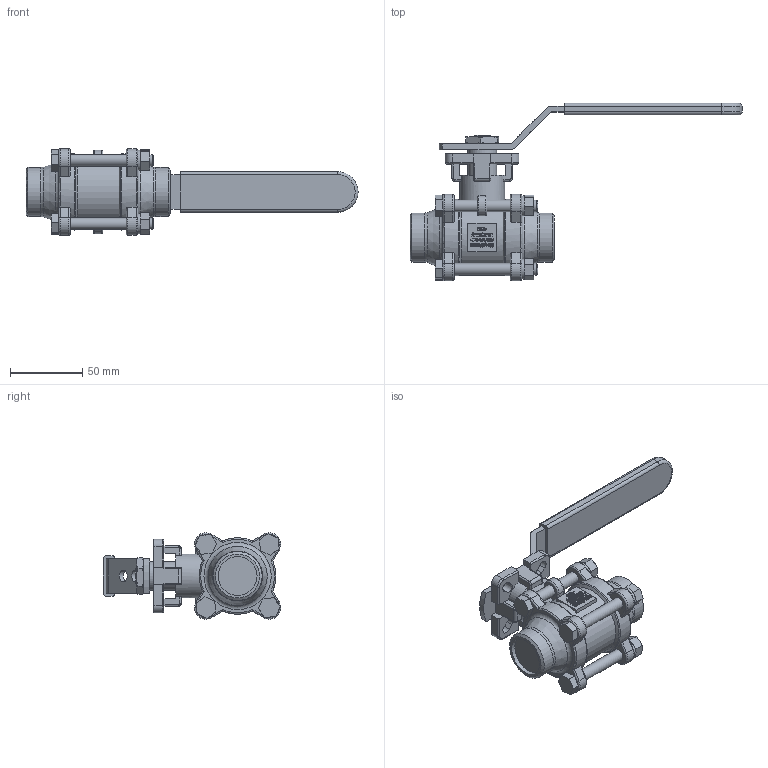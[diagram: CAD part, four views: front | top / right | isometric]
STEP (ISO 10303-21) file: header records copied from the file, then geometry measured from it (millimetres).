
FILE_DESCRIPTION((''),'2;1');
FILE_NAME('K:\Inventor\1 Artikel\11) Muffen-Kugelhähne\11a) manuell\Econosto\470-VABW, 7644ISO\470-VABW, DN25\470-VABW, DN25, 3D\470-VABW, DN25, PN68, HH, 3D.stp','2019-10-23T10:47:37',('claudia'),(''),'Autodesk Inventor 2013','Autodesk Inventor 2013','');
FILE_SCHEMA(('AUTOMOTIVE_DESIGN { 1 0 10303 214 1 1 1 1 }'));
Length unit declared in the file: millimetre
Products named in the file (1): Bauteil10
Bounding box: 230 x 123.01 x 59.82 mm (x, y, z)
Volume: 252128.4 mm3; surface area: 57097.2 mm2
Topology: 1 solids, 1 shells, 1641 faces, 4347 edges, 2837 vertices
Faces by surface type: plane 940, bspline 501, cylinder 138, torus 40, cone 22
Full cylindrical faces by diameter (mm): 8 x10, 8.5 x10, 14 x4, 20 x1, 27 x2, 31 x1, 34 x3, 53 x2
Entity records: 55616 total; most frequent: CARTESIAN_POINT 17887, ORIENTED_EDGE 8572, DIRECTION 5901, EDGE_CURVE 4286, VERTEX_POINT 2825, VECTOR 2825, LINE 2825, EDGE_LOOP 1851
